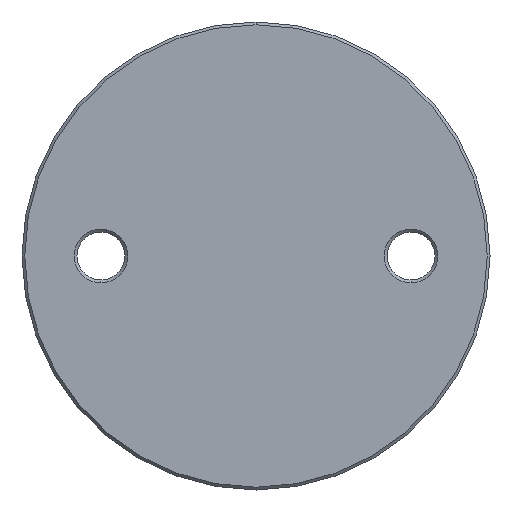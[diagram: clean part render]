
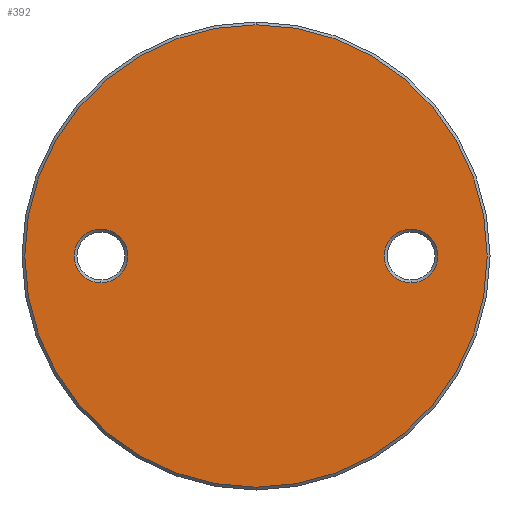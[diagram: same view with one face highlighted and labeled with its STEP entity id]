
A CAD part, front view. The second image highlights one B-rep face of the part: STEP entity #392.
In plain terms, the highlighted planar face has unit normal (0, -1, 0).
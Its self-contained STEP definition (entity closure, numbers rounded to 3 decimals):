
#151 = CARTESIAN_POINT ( 'NONE',  ( 0., -3., 0. ) ) ;
#239 = CARTESIAN_POINT ( 'NONE',  ( 0., -3., 41.5 ) ) ;
#264 = DIRECTION ( 'NONE',  ( 0., 0., -1. ) ) ;
#304 = AXIS2_PLACEMENT_3D ( 'NONE', #2389, #2057, #1095 ) ;
#368 = EDGE_CURVE ( 'NONE', #915, #3899, #4204, .T. ) ;
#392 = ADVANCED_FACE ( 'NONE', ( #3163, #5513, #1726 ), #5462, .T. ) ;
#596 = EDGE_LOOP ( 'NONE', ( #2407, #4010 ) ) ;
#634 = DIRECTION ( 'NONE',  ( 0., 1., 0. ) ) ;
#739 = DIRECTION ( 'NONE',  ( 0., 1., 0. ) ) ;
#762 = CARTESIAN_POINT ( 'NONE',  ( -27.5, -3., 4.75 ) ) ;
#915 = VERTEX_POINT ( 'NONE', #1971 ) ;
#972 = EDGE_LOOP ( 'NONE', ( #4482, #2029 ) ) ;
#1095 = DIRECTION ( 'NONE',  ( 0., 0., -1. ) ) ;
#1257 = AXIS2_PLACEMENT_3D ( 'NONE', #4429, #1798, #1776 ) ;
#1441 = DIRECTION ( 'NONE',  ( 0., 0., -1. ) ) ;
#1443 = CIRCLE ( 'NONE', #3751, 4.75 ) ;
#1539 = DIRECTION ( 'NONE',  ( 0., 0., -1. ) ) ;
#1695 = AXIS2_PLACEMENT_3D ( 'NONE', #1938, #4125, #1441 ) ;
#1726 = FACE_OUTER_BOUND ( 'NONE', #2579, .T. ) ;
#1776 = DIRECTION ( 'NONE',  ( 0., 0., -1. ) ) ;
#1798 = DIRECTION ( 'NONE',  ( 0., 1., 0. ) ) ;
#1938 = CARTESIAN_POINT ( 'NONE',  ( 27.5, -3., 0. ) ) ;
#1945 = CARTESIAN_POINT ( 'NONE',  ( 0., -3., 41. ) ) ;
#1971 = CARTESIAN_POINT ( 'NONE',  ( 0., -3., -41. ) ) ;
#2029 = ORIENTED_EDGE ( 'NONE', *, *, #4503, .T. ) ;
#2057 = DIRECTION ( 'NONE',  ( 0., -1., 0. ) ) ;
#2389 = CARTESIAN_POINT ( 'NONE',  ( 0., -3., 0. ) ) ;
#2407 = ORIENTED_EDGE ( 'NONE', *, *, #5342, .T. ) ;
#2579 = EDGE_LOOP ( 'NONE', ( #5150, #4372 ) ) ;
#2602 = CIRCLE ( 'NONE', #1257, 4.75 ) ;
#2745 = VERTEX_POINT ( 'NONE', #4736 ) ;
#3002 = VERTEX_POINT ( 'NONE', #762 ) ;
#3022 = AXIS2_PLACEMENT_3D ( 'NONE', #3343, #739, #4684 ) ;
#3030 = VERTEX_POINT ( 'NONE', #3801 ) ;
#3163 = FACE_BOUND ( 'NONE', #972, .T. ) ;
#3290 = DIRECTION ( 'NONE',  ( 0., -1., 0. ) ) ;
#3343 = CARTESIAN_POINT ( 'NONE',  ( -27.5, -3., 0. ) ) ;
#3555 = AXIS2_PLACEMENT_3D ( 'NONE', #151, #5012, #5398 ) ;
#3640 = EDGE_CURVE ( 'NONE', #3002, #3030, #2602, .T. ) ;
#3751 = AXIS2_PLACEMENT_3D ( 'NONE', #5496, #634, #264 ) ;
#3787 = EDGE_CURVE ( 'NONE', #2745, #5279, #1443, .T. ) ;
#3801 = CARTESIAN_POINT ( 'NONE',  ( -27.5, -3., -4.75 ) ) ;
#3899 = VERTEX_POINT ( 'NONE', #1945 ) ;
#4010 = ORIENTED_EDGE ( 'NONE', *, *, #3640, .T. ) ;
#4125 = DIRECTION ( 'NONE',  ( 0., 1., 0. ) ) ;
#4204 = CIRCLE ( 'NONE', #304, 41. ) ;
#4223 = AXIS2_PLACEMENT_3D ( 'NONE', #239, #3290, #1539 ) ;
#4251 = CIRCLE ( 'NONE', #3022, 4.75 ) ;
#4372 = ORIENTED_EDGE ( 'NONE', *, *, #368, .T. ) ;
#4429 = CARTESIAN_POINT ( 'NONE',  ( -27.5, -3., 0. ) ) ;
#4482 = ORIENTED_EDGE ( 'NONE', *, *, #3787, .T. ) ;
#4503 = EDGE_CURVE ( 'NONE', #5279, #2745, #5628, .T. ) ;
#4568 = EDGE_CURVE ( 'NONE', #3899, #915, #5154, .T. ) ;
#4684 = DIRECTION ( 'NONE',  ( 0., 0., -1. ) ) ;
#4736 = CARTESIAN_POINT ( 'NONE',  ( 27.5, -3., -4.75 ) ) ;
#5012 = DIRECTION ( 'NONE',  ( 0., -1., 0. ) ) ;
#5147 = CARTESIAN_POINT ( 'NONE',  ( 27.5, -3., 4.75 ) ) ;
#5150 = ORIENTED_EDGE ( 'NONE', *, *, #4568, .T. ) ;
#5154 = CIRCLE ( 'NONE', #3555, 41. ) ;
#5279 = VERTEX_POINT ( 'NONE', #5147 ) ;
#5342 = EDGE_CURVE ( 'NONE', #3030, #3002, #4251, .T. ) ;
#5398 = DIRECTION ( 'NONE',  ( 0., 0., -1. ) ) ;
#5462 = PLANE ( 'NONE',  #4223 ) ;
#5496 = CARTESIAN_POINT ( 'NONE',  ( 27.5, -3., 0. ) ) ;
#5513 = FACE_BOUND ( 'NONE', #596, .T. ) ;
#5628 = CIRCLE ( 'NONE', #1695, 4.75 ) ;
